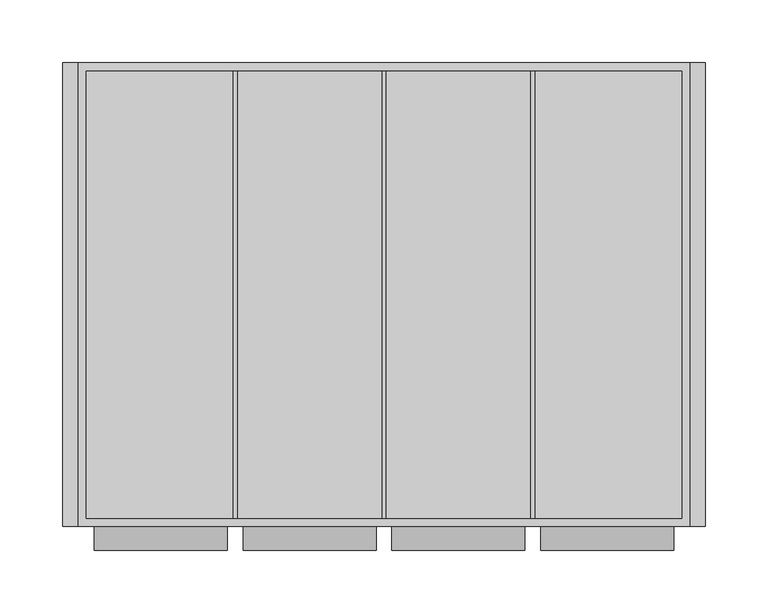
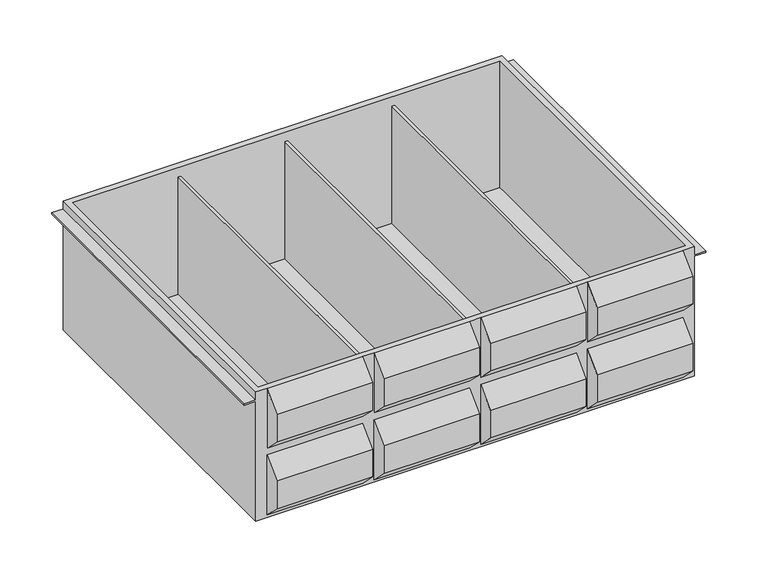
"""IFC4 building model written with IfcOpenShell, lengths in millimetres: furniture geometry, HermanMiller_CoStruc_CO565_Cassette Assembly : 6H x 15D x 20W."""

from ifc_helpers import new_model, si_unit, origin, place, context, project, spatial, faceted_brep, source, transform, mapped, element, save


def furniture_4464ff87(model_context):
    return source(origin(), model_context, "Body", "Brep", [
        faceted_brep([(-238.125, -176.2125, 1382.6109), (-250.825, -176.2125, 1382.6109), (-250.825, -176.2125, 1373.0986), (-263.525, -176.2125, 1373.0986), (-263.525, -176.2125, 1371.5111), (-250.825, -176.2125, 1371.5111), (-250.825, -176.2125, 1230.2109), (238.125, -176.2125, 1230.2109), (238.125, -176.2125, 1371.5111), (250.825, -176.2125, 1371.5111), (250.825, -176.2125, 1373.0986), (238.125, -176.2125, 1373.0986), (238.125, -176.2125, 1382.6109), (225.425, -176.2125, 1382.6109), (225.425, -176.2125, 1312.0226237), (119.0625, -176.2125, 1312.0226237), (119.0625, -176.2125, 1382.6109), (106.3625, -176.2125, 1382.6109), (106.3625, -176.2125, 1312.0226237), (0.0, -176.2125, 1312.0226237), (0.0, -176.2125, 1382.6109), (-12.7, -176.2125, 1382.6109), (-12.7, -176.2125, 1312.0226237), (-119.0625, -176.2125, 1312.0226237), (-119.0625, -176.2125, 1382.6109), (-131.7625, -176.2125, 1382.6109), (-131.7625, -176.2125, 1312.0226237), (-238.125, -176.2125, 1312.0226237), (-131.7625, -176.2125, 1303.8253481), (-131.7625, -176.2125, 1233.2370719), (-238.125, -176.2125, 1233.2370719), (-238.125, -176.2125, 1303.8253481), (-119.0625, -176.2125, 1233.2370719), (-119.0625, -176.2125, 1303.8253481), (-12.7, -176.2125, 1303.8253481), (-12.7, -176.2125, 1233.2370719), (106.3625, -176.2125, 1303.8253481), (106.3625, -176.2125, 1233.2370719), (0.0, -176.2125, 1233.2370719), (0.0, -176.2125, 1303.8253481), (119.0625, -176.2125, 1233.2370719), (119.0625, -176.2125, 1303.8253481), (225.425, -176.2125, 1303.8253481), (225.425, -176.2125, 1233.2370719), (-250.825, 195.2625, 1382.6109), (238.125, 195.2625, 1382.6109), (238.125, 195.2625, 1373.0986), (250.825, 195.2625, 1373.0986), (250.825, 195.2625, 1371.5111), (238.125, 195.2625, 1371.5111), (238.125, 195.2625, 1230.2109), (-250.825, 195.2625, 1230.2109), (-250.825, 195.2625, 1371.5111), (-263.525, 195.2625, 1371.5111), (-263.525, 195.2625, 1373.0986), (-250.825, 195.2625, 1373.0986), (231.775, -169.8625, 1382.6109), (-244.475, -169.8625, 1382.6109), (-244.475, 188.2775, 1382.6109), (231.775, 188.2775, 1382.6109), (-131.7625, -195.2625, 1252.2870719), (-131.7625, -195.2625, 1284.7753481), (-131.7625, -195.2625, 1363.5609), (-131.7625, -195.2625, 1331.0726237), (-238.125, -195.2625, 1252.2870719), (-238.125, -195.2625, 1284.7753481), (-238.125, -195.2625, 1331.0726237), (-238.125, -195.2625, 1363.5609), (231.775, -169.8625, 1233.2370719), (231.775, 188.2775, 1233.2370719), (114.3, 188.2775, 1233.2370719), (114.3, -169.8625, 1233.2370719), (-244.475, 188.2775, 1233.2370719), (-244.475, -169.8625, 1233.2370719), (-127.0, -169.8625, 1233.2370719), (-127.0, 188.2775, 1233.2370719), (-4.7625, -169.8625, 1233.2370719), (111.125, -169.8625, 1233.2370719), (111.125, 188.2775, 1233.2370719), (-4.7625, 188.2775, 1233.2370719), (-123.825, -169.8625, 1233.2370719), (-7.9375, -169.8625, 1233.2370719), (-7.9375, 188.2775, 1233.2370719), (-123.825, 188.2775, 1233.2370719), (114.3, -169.8625, 1371.5111), (111.125, -169.8625, 1371.5111), (-4.7625, -169.8625, 1371.5111), (-7.9375, -169.8625, 1371.5111), (-123.825, -169.8625, 1371.5111), (-127.0, -169.8625, 1371.5111), (-127.0, 188.2775, 1371.5111), (-123.825, 188.2775, 1371.5111), (-7.9375, 188.2775, 1371.5111), (-4.7625, 188.2775, 1371.5111), (111.125, 188.2775, 1371.5111), (114.3, 188.2775, 1371.5111), (-119.0625, -195.2625, 1252.2870719), (-119.0625, -195.2625, 1284.7753481), (-119.0625, -195.2625, 1331.0726237), (-119.0625, -195.2625, 1363.5609), (-12.7, -195.2625, 1252.2870719), (-12.7, -195.2625, 1284.7753481), (-12.7, -195.2625, 1363.5609), (-12.7, -195.2625, 1331.0726237), (106.3625, -195.2625, 1252.2870719), (106.3625, -195.2625, 1284.7753481), (106.3625, -195.2625, 1363.5609), (106.3625, -195.2625, 1331.0726237), (0.0, -195.2625, 1252.2870719), (0.0, -195.2625, 1284.7753481), (0.0, -195.2625, 1331.0726237), (0.0, -195.2625, 1363.5609), (119.0625, -195.2625, 1252.2870719), (119.0625, -195.2625, 1284.7753481), (119.0625, -195.2625, 1331.0726237), (119.0625, -195.2625, 1363.5609), (225.425, -195.2625, 1252.2870719), (225.425, -195.2625, 1284.7753481), (225.425, -195.2625, 1363.5609), (225.425, -195.2625, 1331.0726237)], [[[0, 1, 2, 3, 4, 5, 6, 7, 8, 9, 10, 11, 12, 13, 14, 15, 16, 17, 18, 19, 20, 21, 22, 23, 24, 25, 26, 27], [28, 29, 30, 31], [32, 33, 34, 35], [36, 37, 38, 39], [40, 41, 42, 43]], [[44, 45, 46, 47, 48, 49, 50, 51, 52, 53, 54, 55]], [[51, 50, 7, 6]], [[7, 50, 49, 8]], [[45, 12, 11, 46]], [[45, 44, 1, 0, 25, 24, 21, 20, 17, 16, 13, 12], [56, 57, 58, 59]], [[51, 6, 5, 52]], [[1, 44, 55, 2]], [[60, 29, 28, 61]], [[25, 62, 63, 26]], [[64, 65, 31, 30]], [[27, 66, 67, 0]], [[29, 60, 64, 30]], [[62, 25, 0, 67]], [[63, 62, 67, 66]], [[26, 63, 66, 27]], [[61, 28, 31, 65]], [[60, 61, 65, 64]], [[68, 69, 70, 71]], [[72, 73, 74, 75]], [[76, 77, 78, 79]], [[80, 81, 82, 83]], [[56, 68, 71, 84, 85, 77, 76, 86, 87, 81, 80, 88, 89, 74, 73, 57]], [[69, 68, 56, 59]], [[69, 59, 58, 72, 75, 90, 91, 83, 82, 92, 93, 79, 78, 94, 95, 70]], [[73, 72, 58, 57]], [[96, 97, 33, 32]], [[23, 98, 99, 24]], [[100, 35, 34, 101]], [[21, 102, 103, 22]], [[97, 96, 100, 101]], [[33, 97, 101, 34]], [[98, 23, 22, 103]], [[99, 98, 103, 102]], [[24, 99, 102, 21]], [[96, 32, 35, 100]], [[104, 37, 36, 105]], [[17, 106, 107, 18]], [[108, 109, 39, 38]], [[19, 110, 111, 20]], [[37, 104, 108, 38]], [[106, 17, 20, 111]], [[107, 106, 111, 110]], [[18, 107, 110, 19]], [[105, 36, 39, 109]], [[104, 105, 109, 108]], [[112, 113, 41, 40]], [[15, 114, 115, 16]], [[116, 43, 42, 117]], [[13, 118, 119, 14]], [[113, 112, 116, 117]], [[41, 113, 117, 42]], [[114, 15, 14, 119]], [[115, 114, 119, 118]], [[16, 115, 118, 13]], [[112, 40, 43, 116]], [[54, 53, 4, 3]], [[55, 54, 3, 2]], [[53, 52, 5, 4]], [[49, 48, 9, 8]], [[47, 46, 11, 10]], [[48, 47, 10, 9]], [[88, 91, 90, 89]], [[84, 95, 94, 85]], [[86, 93, 92, 87]], [[91, 88, 80, 83]], [[89, 90, 75, 74]], [[95, 84, 71, 70]], [[85, 94, 78, 77]], [[93, 86, 76, 79]], [[87, 92, 82, 81]]]),
    ])


if __name__ == "__main__":
    model = new_model("IFC4")
    model_context = context("Model", 3, world=origin())
    ifc_project = project(units=[si_unit("LENGTHUNIT", "METRE", prefix="MILLI")], contexts=[model_context])
    site = spatial("IfcSite", under=ifc_project)
    building = spatial("IfcBuilding", under=site)
    placement = place(None, origin())
    furniture_shape = furniture_4464ff87(model_context)
    element("IfcFurniture", 1, ObjectType="HermanMiller_CoStruc_CO565_Cassette Assembly : 6H x 15D x 20W", at=placement, inside=building, context=model_context, shape_type="MappedRepresentation", body=[
        mapped(furniture_shape, transform((0.0, 0.0, 0.0), x_axis=(1.0, 0.0, 0.0), y_axis=(0.0, 1.0, 0.0), z_axis=(0.0, 0.0, 1.0))),
    ])
    save(model, "model.ifc")
